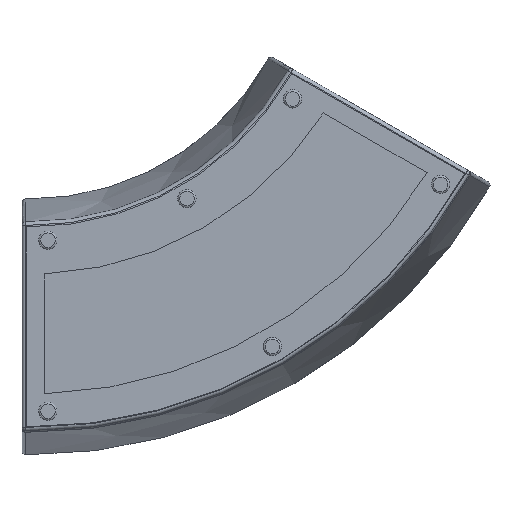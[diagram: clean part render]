
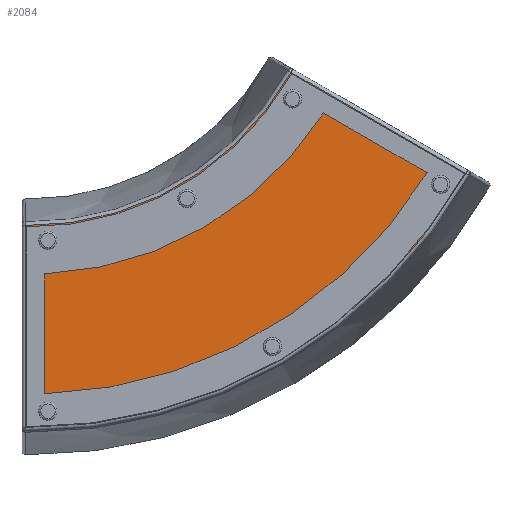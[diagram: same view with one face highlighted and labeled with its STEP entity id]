
A CAD part, front view. The second image highlights one B-rep face of the part: STEP entity #2084.
In plain terms, the highlighted planar face has unit normal (0, -1, 0).
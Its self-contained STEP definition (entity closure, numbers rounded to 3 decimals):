
#168=CIRCLE('',#2413,1375.7);
#175=CIRCLE('',#2422,821.388);
#483=FACE_OUTER_BOUND('',#620,.T.);
#620=EDGE_LOOP('',(#1784,#1785,#1786,#1787));
#774=LINE('',#3648,#907);
#781=LINE('',#4210,#914);
#907=VECTOR('',#2970,10.);
#914=VECTOR('',#3025,10.);
#1025=VERTEX_POINT('',#3616);
#1026=VERTEX_POINT('',#3620);
#1030=VERTEX_POINT('',#3628);
#1035=VERTEX_POINT('',#3641);
#1265=EDGE_CURVE('',#1035,#1030,#774,.T.);
#1288=EDGE_CURVE('',#1026,#1035,#168,.T.);
#1307=EDGE_CURVE('',#1030,#1025,#175,.T.);
#1309=EDGE_CURVE('',#1025,#1026,#781,.T.);
#1784=ORIENTED_EDGE('',*,*,#1265,.F.);
#1785=ORIENTED_EDGE('',*,*,#1288,.F.);
#1786=ORIENTED_EDGE('',*,*,#1309,.F.);
#1787=ORIENTED_EDGE('',*,*,#1307,.F.);
#1971=PLANE('',#2432);
#2084=ADVANCED_FACE('',(#483),#1971,.T.);
#2413=AXIS2_PLACEMENT_3D('',#3932,#3000,#3001);
#2422=AXIS2_PLACEMENT_3D('',#4207,#3020,#3021);
#2432=AXIS2_PLACEMENT_3D('',#4219,#3042,#3043);
#2970=DIRECTION('',(0.,0.,1.));
#3000=DIRECTION('center_axis',(0.,1.,0.));
#3001=DIRECTION('ref_axis',(0.5,0.,-0.866));
#3020=DIRECTION('center_axis',(0.,-1.,0.));
#3021=DIRECTION('ref_axis',(0.5,0.,-0.866));
#3025=DIRECTION('',(0.866,0.,-0.5));
#3042=DIRECTION('center_axis',(0.,-1.,0.));
#3043=DIRECTION('ref_axis',(0.,0.,-1.));
#3616=CARTESIAN_POINT('',(725.779,19.,-410.131));
#3620=CARTESIAN_POINT('',(1205.853,19.,-687.302));
#3628=CARTESIAN_POINT('',(-2.,19.,-830.314));
#3641=CARTESIAN_POINT('',(-2.,19.,-1384.656));
#3648=CARTESIAN_POINT('',(-2.,19.,-965.346));
#3932=CARTESIAN_POINT('Origin',(9.,19.,-9.));
#4207=CARTESIAN_POINT('Origin',(9.,19.,-9.));
#4210=CARTESIAN_POINT('',(666.663,19.,-376.));
#4219=CARTESIAN_POINT('Origin',(9.,19.,-822.173));
